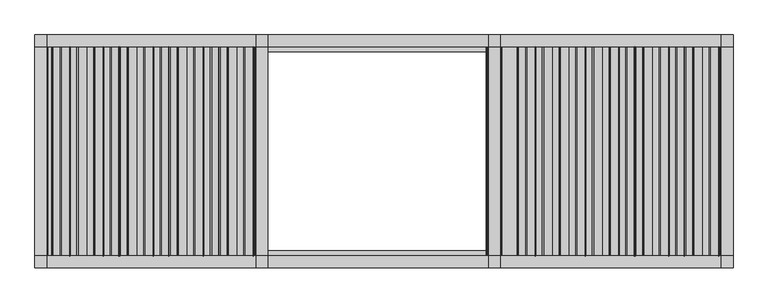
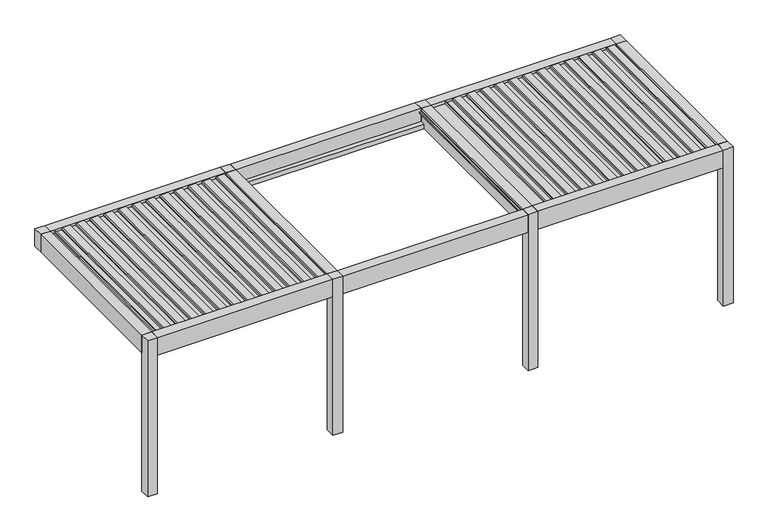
"""IFC4 building model written with IfcOpenShell, lengths in millimetres: proxy geometry, Renson_Amani_Patio_Cover : Renson_Amani_Patio_Cover."""

from ifc_helpers import new_model, si_unit, point, frame, frame_2d, origin, origin_with_axes, place, context, project, spatial, polyline, circle_curve, trimmed, segment, composite_curve, outline, extrude, source, transform, mapped, element, save


def generic_models_b577dba9(model_context):
    return source(origin(), model_context, "Body", "SweptSolid", [
        extrude(outline(composite_curve([segment(polyline([(2483.35, 7073.7289238), (2511.01198, 7076.1490335), (2512.3970364, 7104.984284), (2531.8911096, 7101.5469529), (2526.6075693, 6991.549838)]), True, "CONTINUOUS"), segment(trimmed(circle_curve(frame_2d((2511.6248435, 6992.26951)), 15.0), [point((2526.6075693, 6991.549838))], [point((2514.2295662, 6977.4973937))], False, "CARTESIAN"), True, "CONTINUOUS"), segment(polyline([(2514.2295662, 6977.4973937), (2495.0, 6974.1067023), (2495.0, 6886.3709263), (2512.0788237, 6883.3594689), (2511.3450182, 6868.0824984), (2483.35, 6865.6332517), (2483.35, 7073.7289238)]), True, "CONTINUOUS")], self_intersect=False)), frame((0.0, -1350.0, 0.0), z_axis=(0.0, 1.0, 0.0), x_axis=(0.0, 0.0, 1.0)), (0.0, 0.0, 1.0), 2700.0),
        extrude(outline(composite_curve([segment(polyline([(2483.35, 6858.7132078), (2511.01198, 6861.1333174), (2512.3970364, 6889.9685679), (2531.8911096, 6886.5312368), (2526.6075693, 6776.534122)]), True, "CONTINUOUS"), segment(trimmed(circle_curve(frame_2d((2511.6248435, 6777.2537939)), 15.0), [point((2526.6075693, 6776.534122))], [point((2514.2295662, 6762.4816776))], False, "CARTESIAN"), True, "CONTINUOUS"), segment(polyline([(2514.2295662, 6762.4816776), (2495.0, 6759.0909863), (2495.0, 6671.3552102), (2512.0788237, 6668.3437528), (2511.3450182, 6653.0667824), (2483.35, 6650.6175356), (2483.35, 6858.7132078)]), True, "CONTINUOUS")], self_intersect=False)), frame((0.0, -1350.0, 0.0), z_axis=(0.0, 1.0, 0.0), x_axis=(0.0, 0.0, 1.0)), (0.0, 0.0, 1.0), 2700.0),
        extrude(outline(composite_curve([segment(polyline([(2483.35, 6643.6974917), (2511.01198, 6646.1176014), (2512.3970364, 6674.9528519), (2531.8911096, 6671.5155208), (2526.6075693, 6561.5184059)]), True, "CONTINUOUS"), segment(trimmed(circle_curve(frame_2d((2511.6248435, 6562.2380779)), 15.0), [point((2526.6075693, 6561.5184059))], [point((2514.2295662, 6547.4659616))], False, "CARTESIAN"), True, "CONTINUOUS"), segment(polyline([(2514.2295662, 6547.4659616), (2495.0, 6544.0752702), (2495.0, 6456.3394942), (2512.0788237, 6453.3280368), (2511.3450182, 6438.0510663), (2483.35, 6435.6018196), (2483.35, 6643.6974917)]), True, "CONTINUOUS")], self_intersect=False)), frame((0.0, -1350.0, 0.0), z_axis=(0.0, 1.0, 0.0), x_axis=(0.0, 0.0, 1.0)), (0.0, 0.0, 1.0), 2700.0),
        extrude(outline(composite_curve([segment(polyline([(2483.35, 6428.6817757), (2511.01198, 6431.1018854), (2512.3970364, 6459.9371358), (2531.8911096, 6456.4998047), (2526.6075693, 6346.5026899)]), True, "CONTINUOUS"), segment(trimmed(circle_curve(frame_2d((2511.6248435, 6347.2223618)), 15.0), [point((2526.6075693, 6346.5026899))], [point((2514.2295662, 6332.4502455))], False, "CARTESIAN"), True, "CONTINUOUS"), segment(polyline([(2514.2295662, 6332.4502455), (2495.0, 6329.0595542), (2495.0, 6241.3237782), (2512.0788237, 6238.3123207), (2511.3450182, 6223.0353503), (2483.35, 6220.5861035), (2483.35, 6428.6817757)]), True, "CONTINUOUS")], self_intersect=False)), frame((0.0, -1350.0, 0.0), z_axis=(0.0, 1.0, 0.0), x_axis=(0.0, 0.0, 1.0)), (0.0, 0.0, 1.0), 2700.0),
        extrude(outline(composite_curve([segment(polyline([(2483.35, 6213.6660597), (2511.01198, 6216.0861693), (2512.3970364, 6244.9214198), (2531.8911096, 6241.4840887), (2526.6075693, 6131.4869738)]), True, "CONTINUOUS"), segment(trimmed(circle_curve(frame_2d((2511.6248435, 6132.2066458)), 15.0), [point((2526.6075693, 6131.4869738))], [point((2514.2295662, 6117.4345295))], False, "CARTESIAN"), True, "CONTINUOUS"), segment(polyline([(2514.2295662, 6117.4345295), (2495.0, 6114.0438381), (2495.0, 6026.3080621), (2512.0788237, 6023.2966047), (2511.3450182, 6008.0196342), (2483.35, 6005.5703875), (2483.35, 6213.6660597)]), True, "CONTINUOUS")], self_intersect=False)), frame((0.0, -1350.0, 0.0), z_axis=(0.0, 1.0, 0.0), x_axis=(0.0, 0.0, 1.0)), (0.0, 0.0, 1.0), 2700.0),
        extrude(outline(composite_curve([segment(polyline([(2483.35, 5998.6503436), (2511.01198, 6001.0704533), (2512.3970364, 6029.9057037), (2531.8911096, 6026.4683726), (2526.6075693, 5916.4712578)]), True, "CONTINUOUS"), segment(trimmed(circle_curve(frame_2d((2511.6248435, 5917.1909297)), 15.0), [point((2526.6075693, 5916.4712578))], [point((2514.2295662, 5902.4188134))], False, "CARTESIAN"), True, "CONTINUOUS"), segment(polyline([(2514.2295662, 5902.4188134), (2495.0, 5899.0281221), (2495.0, 5811.2923461), (2512.0788237, 5808.2808886), (2511.3450182, 5793.0039182), (2483.35, 5790.5546714), (2483.35, 5998.6503436)]), True, "CONTINUOUS")], self_intersect=False)), frame((0.0, -1350.0, 0.0), z_axis=(0.0, 1.0, 0.0), x_axis=(0.0, 0.0, 1.0)), (0.0, 0.0, 1.0), 2700.0),
        extrude(outline(composite_curve([segment(polyline([(2483.35, 5783.6346276), (2511.01198, 5786.0547372), (2512.3970364, 5814.8899877), (2531.8911096, 5811.4526566), (2526.6075693, 5701.4555418)]), True, "CONTINUOUS"), segment(trimmed(circle_curve(frame_2d((2511.6248435, 5702.1752137)), 15.0), [point((2526.6075693, 5701.4555418))], [point((2514.2295662, 5687.4030974))], False, "CARTESIAN"), True, "CONTINUOUS"), segment(polyline([(2514.2295662, 5687.4030974), (2495.0, 5684.012406), (2495.0, 5596.27663), (2512.0788237, 5593.2651726), (2511.3450182, 5577.9882021), (2483.35, 5575.5389554), (2483.35, 5783.6346276)]), True, "CONTINUOUS")], self_intersect=False)), frame((0.0, -1350.0, 0.0), z_axis=(0.0, 1.0, 0.0), x_axis=(0.0, 0.0, 1.0)), (0.0, 0.0, 1.0), 2700.0),
        extrude(outline(composite_curve([segment(polyline([(2483.35, 5568.6189115), (2511.01198, 5571.0390212), (2512.3970364, 5599.8742716), (2531.8911096, 5596.4369406), (2526.6075693, 5486.4398257)]), True, "CONTINUOUS"), segment(trimmed(circle_curve(frame_2d((2511.6248435, 5487.1594976)), 15.0), [point((2526.6075693, 5486.4398257))], [point((2514.2295662, 5472.3873813))], False, "CARTESIAN"), True, "CONTINUOUS"), segment(polyline([(2514.2295662, 5472.3873813), (2495.0, 5468.99669), (2495.0, 5381.260914), (2512.0788237, 5378.2494566), (2511.3450182, 5362.9724861), (2483.35, 5360.5232394), (2483.35, 5568.6189115)]), True, "CONTINUOUS")], self_intersect=False)), frame((0.0, -1350.0, 0.0), z_axis=(0.0, 1.0, 0.0), x_axis=(0.0, 0.0, 1.0)), (0.0, 0.0, 1.0), 2700.0),
        extrude(outline(composite_curve([segment(polyline([(2483.35, 5353.6031955), (2511.01198, 5356.0233051), (2512.3970364, 5384.8585556), (2531.8911096, 5381.4212245), (2526.6075693, 5271.4241097)]), True, "CONTINUOUS"), segment(trimmed(circle_curve(frame_2d((2511.6248435, 5272.1437816)), 15.0), [point((2526.6075693, 5271.4241097))], [point((2514.2295662, 5257.3716653))], False, "CARTESIAN"), True, "CONTINUOUS"), segment(polyline([(2514.2295662, 5257.3716653), (2495.0, 5253.980974), (2495.0, 5166.2451979), (2512.0788237, 5163.2337405), (2511.3450182, 5147.95677), (2483.35, 5145.5075233), (2483.35, 5353.6031955)]), True, "CONTINUOUS")], self_intersect=False)), frame((0.0, -1350.0, 0.0), z_axis=(0.0, 1.0, 0.0), x_axis=(0.0, 0.0, 1.0)), (0.0, 0.0, 1.0), 2700.0),
        extrude(outline(composite_curve([segment(polyline([(2483.35, 5138.5874794), (2511.01198, 5141.0075891), (2512.3970364, 5169.8428395), (2531.8911096, 5166.4055085), (2526.6075693, 5056.4083936)]), True, "CONTINUOUS"), segment(trimmed(circle_curve(frame_2d((2511.6248435, 5057.1280655)), 15.0), [point((2526.6075693, 5056.4083936))], [point((2514.2295662, 5042.3559492))], False, "CARTESIAN"), True, "CONTINUOUS"), segment(polyline([(2514.2295662, 5042.3559492), (2495.0, 5038.9652579), (2495.0, 4951.2294819), (2512.0788237, 4948.2180245), (2511.3450182, 4932.941054), (2483.35, 4930.4918073), (2483.35, 5138.5874794)]), True, "CONTINUOUS")], self_intersect=False)), frame((0.0, -1350.0, 0.0), z_axis=(0.0, 1.0, 0.0), x_axis=(0.0, 0.0, 1.0)), (0.0, 0.0, 1.0), 2700.0),
        extrude(outline(composite_curve([segment(polyline([(2483.35, 7288.7446399), (2511.01198, 7291.1647495), (2512.3970364, 7320.0), (2531.8911096, 7316.5626689), (2526.6075693, 7206.5655541)]), True, "CONTINUOUS"), segment(trimmed(circle_curve(frame_2d((2511.6248435, 7207.285226)), 15.0), [point((2526.6075693, 7206.5655541))], [point((2514.2295662, 7192.5131097))], False, "CARTESIAN"), True, "CONTINUOUS"), segment(polyline([(2514.2295662, 7192.5131097), (2495.0, 7189.1224184), (2495.0, 7101.3866423), (2512.0788237, 7098.3751849), (2511.3450182, 7083.0982144), (2483.35, 7080.6489677), (2483.35, 7288.7446399)]), True, "CONTINUOUS")], self_intersect=False)), frame((0.0, -1350.0, 0.0), z_axis=(0.0, 1.0, 0.0), x_axis=(0.0, 0.0, 1.0)), (0.0, 0.0, 1.0), 2700.0),
        extrude(outline(composite_curve([segment(polyline([(2483.35, 4923.5717634), (2511.01198, 4925.991873), (2512.3970364, 4954.8271235), (2531.8911096, 4951.3897924), (2526.6075693, 4841.3926776)]), True, "CONTINUOUS"), segment(trimmed(circle_curve(frame_2d((2511.6248435, 4842.1123495)), 15.0), [point((2526.6075693, 4841.3926776))], [point((2514.2295662, 4827.3402332))], False, "CARTESIAN"), True, "CONTINUOUS"), segment(polyline([(2514.2295662, 4827.3402332), (2495.0, 4823.9495419), (2495.0, 4736.2137658), (2512.0788237, 4733.2023084), (2511.3450182, 4717.9253379), (2483.35, 4715.4760912), (2483.35, 4923.5717634)]), True, "CONTINUOUS")], self_intersect=False)), frame((0.0, -1350.0, 0.0), z_axis=(0.0, 1.0, 0.0), x_axis=(0.0, 0.0, 1.0)), (0.0, 0.0, 1.0), 2700.0),
        extrude(outline(composite_curve([segment(polyline([(2483.35, 1073.7289238), (2511.01198, 1076.1490335), (2512.3970364, 1104.984284), (2531.8911096, 1101.5469529), (2526.6075693, 991.549838)]), True, "CONTINUOUS"), segment(trimmed(circle_curve(frame_2d((2511.6248435, 992.26951)), 15.0), [point((2526.6075693, 991.549838))], [point((2514.2295662, 977.4973937))], False, "CARTESIAN"), True, "CONTINUOUS"), segment(polyline([(2514.2295662, 977.4973937), (2495.0, 974.1067023), (2495.0, 886.3709263), (2512.0788237, 883.3594689), (2511.3450182, 868.0824984), (2483.35, 865.6332517), (2483.35, 1073.7289238)]), True, "CONTINUOUS")], self_intersect=False)), frame((0.0, -1350.0, 0.0), z_axis=(0.0, 1.0, 0.0), x_axis=(0.0, 0.0, 1.0)), (0.0, 0.0, 1.0), 2700.0),
        extrude(outline(composite_curve([segment(polyline([(2483.35, 858.7132078), (2511.01198, 861.1333174), (2512.3970364, 889.9685679), (2531.8911096, 886.5312368), (2526.6075693, 776.534122)]), True, "CONTINUOUS"), segment(trimmed(circle_curve(frame_2d((2511.6248435, 777.2537939)), 15.0), [point((2526.6075693, 776.534122))], [point((2514.2295662, 762.4816776))], False, "CARTESIAN"), True, "CONTINUOUS"), segment(polyline([(2514.2295662, 762.4816776), (2495.0, 759.0909863), (2495.0, 671.3552102), (2512.0788237, 668.3437528), (2511.3450182, 653.0667824), (2483.35, 650.6175356), (2483.35, 858.7132078)]), True, "CONTINUOUS")], self_intersect=False)), frame((0.0, -1350.0, 0.0), z_axis=(0.0, 1.0, 0.0), x_axis=(0.0, 0.0, 1.0)), (0.0, 0.0, 1.0), 2700.0),
        extrude(outline(composite_curve([segment(polyline([(2483.35, 643.6974917), (2511.01198, 646.1176014), (2512.3970364, 674.9528519), (2531.8911096, 671.5155208), (2526.6075693, 561.5184059)]), True, "CONTINUOUS"), segment(trimmed(circle_curve(frame_2d((2511.6248435, 562.2380779)), 15.0), [point((2526.6075693, 561.5184059))], [point((2514.2295662, 547.4659616))], False, "CARTESIAN"), True, "CONTINUOUS"), segment(polyline([(2514.2295662, 547.4659616), (2495.0, 544.0752702), (2495.0, 456.3394942), (2512.0788237, 453.3280368), (2511.3450182, 438.0510663), (2483.35, 435.6018196), (2483.35, 643.6974917)]), True, "CONTINUOUS")], self_intersect=False)), frame((0.0, -1350.0, 0.0), z_axis=(0.0, 1.0, 0.0), x_axis=(0.0, 0.0, 1.0)), (0.0, 0.0, 1.0), 2700.0),
        extrude(outline(composite_curve([segment(polyline([(2483.35, 428.6817757), (2511.01198, 431.1018854), (2512.3970364, 459.9371358), (2531.8911096, 456.4998047), (2526.6075693, 346.5026899)]), True, "CONTINUOUS"), segment(trimmed(circle_curve(frame_2d((2511.6248435, 347.2223618)), 15.0), [point((2526.6075693, 346.5026899))], [point((2514.2295662, 332.4502455))], False, "CARTESIAN"), True, "CONTINUOUS"), segment(polyline([(2514.2295662, 332.4502455), (2495.0, 329.0595542), (2495.0, 241.3237782), (2512.0788237, 238.3123207), (2511.3450182, 223.0353503), (2483.35, 220.5861035), (2483.35, 428.6817757)]), True, "CONTINUOUS")], self_intersect=False)), frame((0.0, -1350.0, 0.0), z_axis=(0.0, 1.0, 0.0), x_axis=(0.0, 0.0, 1.0)), (0.0, 0.0, 1.0), 2700.0),
        extrude(outline(composite_curve([segment(polyline([(2483.35, 213.6660597), (2511.01198, 216.0861693), (2512.3970364, 244.9214198), (2531.8911096, 241.4840887), (2526.6075693, 131.4869738)]), True, "CONTINUOUS"), segment(trimmed(circle_curve(frame_2d((2511.6248435, 132.2066458)), 15.0), [point((2526.6075693, 131.4869738))], [point((2514.2295662, 117.4345295))], False, "CARTESIAN"), True, "CONTINUOUS"), segment(polyline([(2514.2295662, 117.4345295), (2495.0, 114.0438381), (2495.0, 26.3080621), (2512.0788237, 23.2966047), (2511.3450182, 8.0196342), (2483.35, 5.5703875), (2483.35, 213.6660597)]), True, "CONTINUOUS")], self_intersect=False)), frame((0.0, -1350.0, 0.0), z_axis=(0.0, 1.0, 0.0), x_axis=(0.0, 0.0, 1.0)), (0.0, 0.0, 1.0), 2700.0),
        extrude(outline(composite_curve([segment(polyline([(2483.35, -1.3496564), (2511.01198, 1.0704533), (2512.3970364, 29.9057037), (2531.8911096, 26.4683726), (2526.6075693, -83.5287422)]), True, "CONTINUOUS"), segment(trimmed(circle_curve(frame_2d((2511.6248435, -82.8090703)), 15.0), [point((2526.6075693, -83.5287422))], [point((2514.2295662, -97.5811866))], False, "CARTESIAN"), True, "CONTINUOUS"), segment(polyline([(2514.2295662, -97.5811866), (2495.0, -100.9718779), (2495.0, -188.7076539), (2512.0788237, -191.7191114), (2511.3450182, -206.9960818), (2483.35, -209.4453286), (2483.35, -1.3496564)]), True, "CONTINUOUS")], self_intersect=False)), frame((0.0, -1350.0, 0.0), z_axis=(0.0, 1.0, 0.0), x_axis=(0.0, 0.0, 1.0)), (0.0, 0.0, 1.0), 2700.0),
        extrude(outline(composite_curve([segment(polyline([(2483.35, -216.3653724), (2511.01198, -213.9452628), (2512.3970364, -185.1100123), (2531.8911096, -188.5473434), (2526.6075693, -298.5444582)]), True, "CONTINUOUS"), segment(trimmed(circle_curve(frame_2d((2511.6248435, -297.8247863)), 15.0), [point((2526.6075693, -298.5444582))], [point((2514.2295662, -312.5969026))], False, "CARTESIAN"), True, "CONTINUOUS"), segment(polyline([(2514.2295662, -312.5969026), (2495.0, -315.987594), (2495.0, -403.72337), (2512.0788237, -406.7348274), (2511.3450182, -422.0117979), (2483.35, -424.4610446), (2483.35, -216.3653724)]), True, "CONTINUOUS")], self_intersect=False)), frame((0.0, -1350.0, 0.0), z_axis=(0.0, 1.0, 0.0), x_axis=(0.0, 0.0, 1.0)), (0.0, 0.0, 1.0), 2700.0),
        extrude(outline(composite_curve([segment(polyline([(2483.35, -431.3810885), (2511.01198, -428.9609788), (2512.3970364, -400.1257284), (2531.8911096, -403.5630594), (2526.6075693, -513.5601743)]), True, "CONTINUOUS"), segment(trimmed(circle_curve(frame_2d((2511.6248435, -512.8405024)), 15.0), [point((2526.6075693, -513.5601743))], [point((2514.2295662, -527.6126187))], False, "CARTESIAN"), True, "CONTINUOUS"), segment(polyline([(2514.2295662, -527.6126187), (2495.0, -531.00331), (2495.0, -618.739086), (2512.0788237, -621.7505434), (2511.3450182, -637.0275139), (2483.35, -639.4767606), (2483.35, -431.3810885)]), True, "CONTINUOUS")], self_intersect=False)), frame((0.0, -1350.0, 0.0), z_axis=(0.0, 1.0, 0.0), x_axis=(0.0, 0.0, 1.0)), (0.0, 0.0, 1.0), 2700.0),
        extrude(outline(composite_curve([segment(polyline([(2483.35, -646.3968045), (2511.01198, -643.9766949), (2512.3970364, -615.1414444), (2531.8911096, -618.5787755), (2526.6075693, -728.5758903)]), True, "CONTINUOUS"), segment(trimmed(circle_curve(frame_2d((2511.6248435, -727.8562184)), 15.0), [point((2526.6075693, -728.5758903))], [point((2514.2295662, -742.6283347))], False, "CARTESIAN"), True, "CONTINUOUS"), segment(polyline([(2514.2295662, -742.6283347), (2495.0, -746.019026), (2495.0, -833.7548021), (2512.0788237, -836.7662595), (2511.3450182, -852.04323), (2483.35, -854.4924767), (2483.35, -646.3968045)]), True, "CONTINUOUS")], self_intersect=False)), frame((0.0, -1350.0, 0.0), z_axis=(0.0, 1.0, 0.0), x_axis=(0.0, 0.0, 1.0)), (0.0, 0.0, 1.0), 2700.0),
        extrude(outline(composite_curve([segment(polyline([(2483.35, -861.4125206), (2511.01198, -858.9924109), (2512.3970364, -830.1571605), (2531.8911096, -833.5944915), (2526.6075693, -943.5916064)]), True, "CONTINUOUS"), segment(trimmed(circle_curve(frame_2d((2511.6248435, -942.8719345)), 15.0), [point((2526.6075693, -943.5916064))], [point((2514.2295662, -957.6440508))], False, "CARTESIAN"), True, "CONTINUOUS"), segment(polyline([(2514.2295662, -957.6440508), (2495.0, -961.0347421), (2495.0, -1048.7705181), (2512.0788237, -1051.7819755), (2511.3450182, -1067.058946), (2483.35, -1069.5081927), (2483.35, -861.4125206)]), True, "CONTINUOUS")], self_intersect=False)), frame((0.0, -1350.0, 0.0), z_axis=(0.0, 1.0, 0.0), x_axis=(0.0, 0.0, 1.0)), (0.0, 0.0, 1.0), 2700.0),
        extrude(outline(composite_curve([segment(polyline([(2483.35, 1288.7446399), (2511.01198, 1291.1647495), (2512.3970364, 1320.0), (2531.8911096, 1316.5626689), (2526.6075693, 1206.5655541)]), True, "CONTINUOUS"), segment(trimmed(circle_curve(frame_2d((2511.6248435, 1207.285226)), 15.0), [point((2526.6075693, 1206.5655541))], [point((2514.2295662, 1192.5131097))], False, "CARTESIAN"), True, "CONTINUOUS"), segment(polyline([(2514.2295662, 1192.5131097), (2495.0, 1189.1224184), (2495.0, 1101.3866423), (2512.0788237, 1098.3751849), (2511.3450182, 1083.0982144), (2483.35, 1080.6489677), (2483.35, 1288.7446399)]), True, "CONTINUOUS")], self_intersect=False)), frame((0.0, -1350.0, 0.0), z_axis=(0.0, 1.0, 0.0), x_axis=(0.0, 0.0, 1.0)), (0.0, 0.0, 1.0), 2700.0),
        extrude(outline(composite_curve([segment(polyline([(2483.35, -1076.4282366), (2511.01198, -1074.008127), (2512.3970364, -1045.1728765), (2531.8911096, -1048.6102076), (2526.6075693, -1158.6073224)]), True, "CONTINUOUS"), segment(trimmed(circle_curve(frame_2d((2511.6248435, -1157.8876505)), 15.0), [point((2526.6075693, -1158.6073224))], [point((2514.2295662, -1172.6597668))], False, "CARTESIAN"), True, "CONTINUOUS"), segment(polyline([(2514.2295662, -1172.6597668), (2495.0, -1176.0504581), (2495.0, -1263.7862342), (2512.0788237, -1266.7976916), (2511.3450182, -1282.0746621), (2483.35, -1284.5239088), (2483.35, -1076.4282366)]), True, "CONTINUOUS")], self_intersect=False)), frame((0.0, -1350.0, 0.0), z_axis=(0.0, 1.0, 0.0), x_axis=(0.0, 0.0, 1.0)), (0.0, 0.0, 1.0), 2700.0),
        extrude(outline(polyline([(7500.0, -1350.0), (7500.0, -1500.0), (7350.0, -1500.0), (7350.0, -1350.0), (7500.0, -1350.0)])), origin_with_axes(), (0.0, 0.0, 1.0), 2535.0),
        extrude(outline(polyline([(7500.0, 1500.0), (7500.0, 1350.0), (7350.0, 1350.0), (7350.0, 1500.0), (7500.0, 1500.0)])), frame((0.0, 0.0, 2250.0), z_axis=(0.0, 0.0, 1.0), x_axis=(1.0, 0.0, 0.0)), (0.0, 0.0, 1.0), 285.0),
        extrude(outline(polyline([(4500.0, 1350.0), (4350.0, 1350.0), (4350.0, 1500.0), (4500.0, 1500.0), (4500.0, 1350.0)])), frame((0.0, 0.0, 2250.0), z_axis=(0.0, 0.0, 1.0), x_axis=(1.0, 0.0, 0.0)), (0.0, 0.0, 1.0), 285.0),
        extrude(outline(polyline([(1500.0, 1500.0), (1500.0, 1350.0), (1350.0, 1350.0), (1350.0, 1500.0), (1500.0, 1500.0)])), frame((0.0, 0.0, 2250.0), z_axis=(0.0, 0.0, 1.0), x_axis=(1.0, 0.0, 0.0)), (0.0, 0.0, 1.0), 285.0),
        extrude(outline(polyline([(-1350.0, 1500.0), (-1350.0, 1350.0), (-1500.0, 1350.0), (-1500.0, 1500.0), (-1350.0, 1500.0)])), frame((0.0, 0.0, 2250.0), z_axis=(0.0, 0.0, 1.0), x_axis=(1.0, 0.0, 0.0)), (0.0, 0.0, 1.0), 285.0),
        extrude(outline(polyline([(4500.0, -1350.0), (4500.0, -1500.0), (4350.0, -1500.0), (4350.0, -1350.0), (4500.0, -1350.0)])), origin_with_axes(), (0.0, 0.0, 1.0), 2535.0),
        extrude(outline(polyline([(1500.0, -1350.0), (1500.0, -1500.0), (1350.0, -1500.0), (1350.0, -1350.0), (1500.0, -1350.0)])), origin_with_axes(), (0.0, 0.0, 1.0), 2535.0),
        extrude(outline(polyline([(-1350.0, -1350.0), (-1350.0, -1500.0), (-1500.0, -1500.0), (-1500.0, -1350.0), (-1350.0, -1350.0)])), origin_with_axes(), (0.0, 0.0, 1.0), 2535.0),
        extrude(outline(polyline([(2466.6559373, 4500.0), (2466.6559373, 4710.0), (2480.6555802, 4713.7512887), (2480.6555802, 4520.4059055), (2496.400763, 4505.0), (2504.2449277, 4505.0), (2504.6823598, 4500.0), (2466.6559373, 4500.0)])), frame((0.0, -1350.0, 0.0), z_axis=(0.0, 1.0, 0.0), x_axis=(0.0, 0.0, 1.0)), (0.0, 0.0, 1.0), 2700.0),
        extrude(outline(polyline([(-1350.0, 2535.0), (-1350.0, 2322.0), (-1280.0000001, 2322.0), (-1280.0000001, 2250.0), (-1500.0, 2250.0), (-1500.0, 2535.0), (-1350.0, 2535.0)])), frame((4500.0, 0.0, 0.0), z_axis=(1.0, 0.0, 0.0), x_axis=(0.0, 1.0, 0.0)), (0.0, 0.0, 1.0), 2850.0),
        extrude(outline(polyline([(1500.0, 2250.0), (1280.0000001, 2250.0), (1280.0000001, 2322.0), (1350.0, 2322.0), (1350.0, 2535.0), (1500.0, 2535.0), (1500.0, 2250.0)])), frame((4500.0, 0.0, 0.0), z_axis=(1.0, 0.0, 0.0), x_axis=(0.0, 1.0, 0.0)), (0.0, 0.0, 1.0), 2850.0),
        extrude(outline(polyline([(2535.0, 7500.0), (2535.0, 7350.0), (2504.6823598, 7350.0), (2504.2449277, 7345.0), (2496.400763, 7345.0), (2480.6555802, 7329.2544156), (2480.6555802, 7319.9090324), (2466.6559373, 7323.6603211), (2466.6559373, 7350.0), (2250.0, 7350.0), (2250.0, 7500.0), (2535.0, 7500.0)])), frame((0.0, -1350.0, 0.0), z_axis=(0.0, 1.0, 0.0), x_axis=(0.0, 0.0, 1.0)), (0.0, 0.0, 1.0), 2700.0),
        extrude(outline(polyline([(-1350.0, 2535.0), (-1350.0, 2322.0), (-1280.0000001, 2322.0), (-1280.0000001, 2250.0), (-1500.0, 2250.0), (-1500.0, 2535.0), (-1350.0, 2535.0)])), frame((1500.0, 0.0, 0.0), z_axis=(1.0, 0.0, 0.0), x_axis=(0.0, 1.0, 0.0)), (0.0, 0.0, 1.0), 2850.0),
        extrude(outline(polyline([(1500.0, 2250.0), (1280.0000001, 2250.0), (1280.0000001, 2322.0), (1350.0, 2322.0), (1350.0, 2535.0), (1500.0, 2535.0), (1500.0, 2250.0)])), frame((1500.0, 0.0, 0.0), z_axis=(1.0, 0.0, 0.0), x_axis=(0.0, 1.0, 0.0)), (0.0, 0.0, 1.0), 2850.0),
        extrude(outline(polyline([(2535.0, 4500.0), (2535.0, 4350.0), (2504.6823598, 4350.0), (2504.2449277, 4345.0), (2496.400763, 4345.0), (2480.6555802, 4329.2544156), (2480.6555802, 4319.9090324), (2466.6559373, 4323.6603211), (2466.6559373, 4350.0), (2250.0, 4350.0), (2250.0, 4500.0), (2535.0, 4500.0)])), frame((0.0, -1350.0, 0.0), z_axis=(0.0, 1.0, 0.0), x_axis=(0.0, 0.0, 1.0)), (0.0, 0.0, 1.0), 2700.0),
        extrude(outline(polyline([(2466.6559373, -1350.0), (2466.6559373, -1290.0), (2480.6555802, -1286.2487113), (2480.6555802, -1329.5940945), (2496.400763, -1345.0), (2504.2449277, -1345.0), (2504.6823598, -1350.0), (2466.6559373, -1350.0)])), frame((0.0, -1350.0, 0.0), z_axis=(0.0, 1.0, 0.0), x_axis=(0.0, 0.0, 1.0)), (0.0, 0.0, 1.0), 2700.0),
        extrude(outline(polyline([(-1350.0, -1350.0), (-1500.0, -1350.0), (-1500.0, 1350.0), (-1350.0, 1350.0), (-1350.0, -1350.0)])), frame((0.0, 0.0, 2250.0), z_axis=(0.0, 0.0, 1.0), x_axis=(1.0, 0.0, 0.0)), (0.0, 0.0, 1.0), 285.0),
        extrude(outline(polyline([(2535.0, 1500.0), (2535.0, 1350.0), (2504.6904658, 1350.0), (2504.2449277, 1345.0), (2496.400763, 1345.0), (2480.6555802, 1329.2544156), (2480.6555802, 1319.9090324), (2466.6559373, 1323.6603211), (2466.6559373, 1350.0), (2250.0, 1350.0), (2250.0, 1500.0), (2535.0, 1500.0)])), frame((0.0, -1350.0, 0.0), z_axis=(0.0, 1.0, 0.0), x_axis=(0.0, 0.0, 1.0)), (0.0, 0.0, 1.0), 2700.0),
        extrude(outline(polyline([(-1350.0, 2535.0), (-1350.0, 2322.0), (-1280.0000001, 2322.0), (-1280.0000001, 2250.0), (-1500.0, 2250.0), (-1500.0, 2535.0), (-1350.0, 2535.0)])), frame((-1350.0, 0.0, 0.0), z_axis=(1.0, 0.0, 0.0), x_axis=(0.0, 1.0, 0.0)), (0.0, 0.0, 1.0), 2700.0),
        extrude(outline(polyline([(1500.0, 2250.0), (1280.0000001, 2250.0), (1280.0000001, 2322.0), (1350.0, 2322.0), (1350.0, 2535.0), (1500.0, 2535.0), (1500.0, 2250.0)])), frame((-1350.0, 0.0, 0.0), z_axis=(1.0, 0.0, 0.0), x_axis=(0.0, 1.0, 0.0)), (0.0, 0.0, 1.0), 2700.0),
    ])


if __name__ == "__main__":
    model = new_model("IFC4")
    model_context = context("Model", 3, world=origin())
    ifc_project = project(units=[si_unit("LENGTHUNIT", "METRE", prefix="MILLI")], contexts=[model_context])
    site = spatial("IfcSite", under=ifc_project)
    building = spatial("IfcBuilding", under=site)
    placement = place(None, origin())
    generic_models_shape = generic_models_b577dba9(model_context)
    element("IfcBuildingElementProxy", 1, Name="Renson_Amani_Patio_Cover : Renson_Amani_Patio_Cover", ObjectType="Renson_Amani_Patio_Cover : Renson_Amani_Patio_Cover", at=placement, inside=building, context=model_context, shape_type="MappedRepresentation", body=[
        mapped(generic_models_shape, transform((0.0, 0.0, 0.0), x_axis=(1.0, 0.0, 0.0), y_axis=(0.0, 1.0, 0.0), z_axis=(0.0, 0.0, 1.0))),
    ])
    save(model, "model.ifc")
